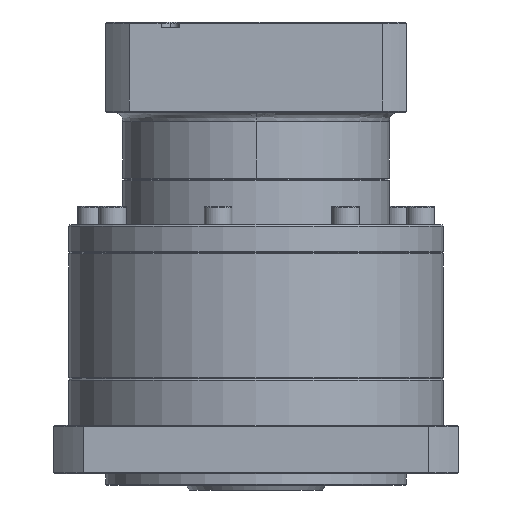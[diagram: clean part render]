
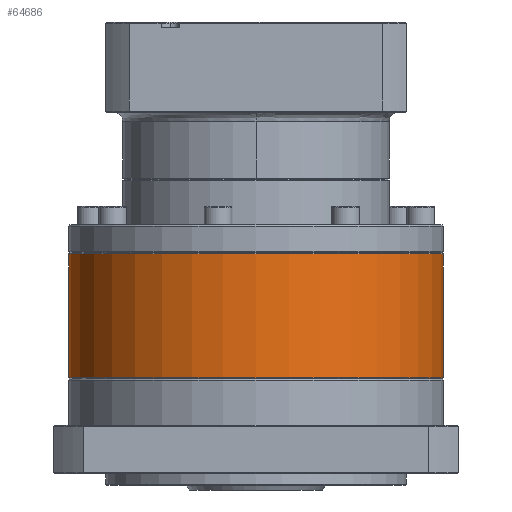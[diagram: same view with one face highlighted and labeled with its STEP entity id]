
A CAD part, left-side view. The second image highlights one B-rep face of the part: STEP entity #64686.
In plain terms, the highlighted cylindrical face has radius 81 mm (diameter 162 mm), a partial arc.
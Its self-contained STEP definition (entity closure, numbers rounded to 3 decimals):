
#1961 = VERTEX_POINT ( 'NONE', #62919 ) ;
#2876 = AXIS2_PLACEMENT_3D ( 'NONE', #100639, #70758, #37431 ) ;
#4510 = VERTEX_POINT ( 'NONE', #68676 ) ;
#4540 = EDGE_CURVE ( 'NONE', #1961, #64241, #90814, .T. ) ;
#5727 = DIRECTION ( 'NONE',  ( 0., 0., -1. ) ) ;
#14847 = AXIS2_PLACEMENT_3D ( 'NONE', #87808, #63954, #33808 ) ;
#20679 = ORIENTED_EDGE ( 'NONE', *, *, #21543, .T. ) ;
#21543 = EDGE_CURVE ( 'NONE', #4510, #23466, #38092, .T. ) ;
#23466 = VERTEX_POINT ( 'NONE', #47171 ) ;
#25382 = EDGE_CURVE ( 'NONE', #4510, #1961, #84202, .T. ) ;
#27206 = DIRECTION ( 'NONE',  ( 0., 0., -1. ) ) ;
#30272 = VECTOR ( 'NONE', #27206, 1000. ) ;
#31980 = DIRECTION ( 'NONE',  ( 0., 1., 0. ) ) ;
#33185 = CARTESIAN_POINT ( 'NONE',  ( -132.241, 122.681, -94.972 ) ) ;
#33506 = AXIS2_PLACEMENT_3D ( 'NONE', #98107, #57716, #33577 ) ;
#33577 = DIRECTION ( 'NONE',  ( 0., 1., 0. ) ) ;
#33808 = DIRECTION ( 'NONE',  ( 0., 1., 0. ) ) ;
#37114 = VECTOR ( 'NONE', #5727, 1000. ) ;
#37431 = DIRECTION ( 'NONE',  ( 0., -1., 0. ) ) ;
#38092 = CIRCLE ( 'NONE', #73265, 81. ) ;
#43636 = EDGE_CURVE ( 'NONE', #23466, #84926, #70144, .T. ) ;
#47171 = CARTESIAN_POINT ( 'NONE',  ( -213.241, 41.681, -94.972 ) ) ;
#57716 = DIRECTION ( 'NONE',  ( 0., 0., -1. ) ) ;
#59642 = LINE ( 'NONE', #103222, #37114 ) ;
#62919 = CARTESIAN_POINT ( 'NONE',  ( -132.241, -39.319, -148.472 ) ) ;
#63954 = DIRECTION ( 'NONE',  ( 0., 0., -1. ) ) ;
#64171 = ORIENTED_EDGE ( 'NONE', *, *, #70530, .T. ) ;
#64241 = VERTEX_POINT ( 'NONE', #65938 ) ;
#64686 = ADVANCED_FACE ( 'NONE', ( #79505 ), #100881, .T. ) ;
#65938 = CARTESIAN_POINT ( 'NONE',  ( -132.241, 122.681, -148.472 ) ) ;
#68202 = CARTESIAN_POINT ( 'NONE',  ( -132.241, -39.319, -94.472 ) ) ;
#68676 = CARTESIAN_POINT ( 'NONE',  ( -132.241, -39.319, -94.972 ) ) ;
#70144 = CIRCLE ( 'NONE', #33506, 81. ) ;
#70530 = EDGE_CURVE ( 'NONE', #84926, #64241, #59642, .T. ) ;
#70758 = DIRECTION ( 'NONE',  ( 0., 0., -1. ) ) ;
#71967 = CARTESIAN_POINT ( 'NONE',  ( -132.241, 41.681, -94.972 ) ) ;
#72863 = ORIENTED_EDGE ( 'NONE', *, *, #25382, .F. ) ;
#73265 = AXIS2_PLACEMENT_3D ( 'NONE', #71967, #80042, #31980 ) ;
#79505 = FACE_OUTER_BOUND ( 'NONE', #80968, .T. ) ;
#80042 = DIRECTION ( 'NONE',  ( 0., 0., -1. ) ) ;
#80968 = EDGE_LOOP ( 'NONE', ( #72863, #20679, #82241, #64171, #82604 ) ) ;
#82241 = ORIENTED_EDGE ( 'NONE', *, *, #43636, .T. ) ;
#82604 = ORIENTED_EDGE ( 'NONE', *, *, #4540, .F. ) ;
#84202 = LINE ( 'NONE', #68202, #30272 ) ;
#84926 = VERTEX_POINT ( 'NONE', #33185 ) ;
#87808 = CARTESIAN_POINT ( 'NONE',  ( -132.241, 41.681, -94.472 ) ) ;
#90814 = CIRCLE ( 'NONE', #2876, 81. ) ;
#98107 = CARTESIAN_POINT ( 'NONE',  ( -132.241, 41.681, -94.972 ) ) ;
#100639 = CARTESIAN_POINT ( 'NONE',  ( -132.241, 41.681, -148.472 ) ) ;
#100881 = CYLINDRICAL_SURFACE ( 'NONE', #14847, 81. ) ;
#103222 = CARTESIAN_POINT ( 'NONE',  ( -132.241, 122.681, -94.472 ) ) ;
